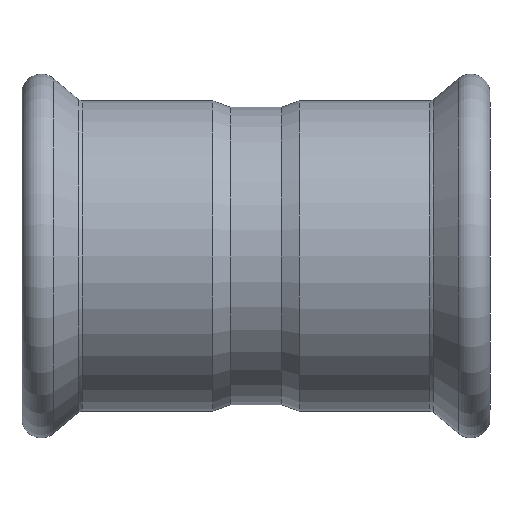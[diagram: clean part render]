
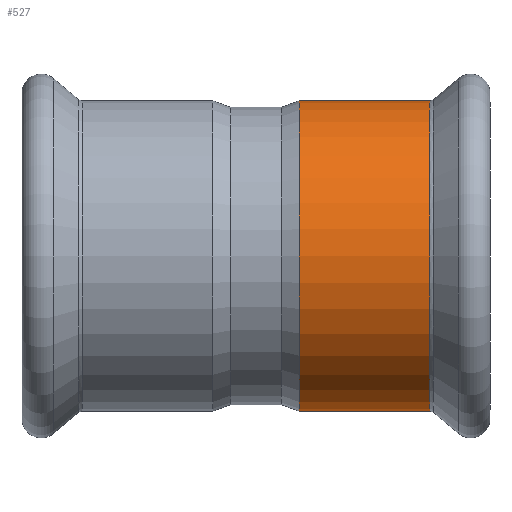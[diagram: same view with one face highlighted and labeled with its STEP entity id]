
A CAD part, front view. The second image highlights one B-rep face of the part: STEP entity #527.
In plain terms, the highlighted cylindrical face has radius 56.35 mm (diameter 112.7 mm), a full revolution.
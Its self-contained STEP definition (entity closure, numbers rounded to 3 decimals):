
#485=CARTESIAN_POINT('',(63.105,56.35,0.0));
#486=VERTEX_POINT('',#485);
#487=CARTESIAN_POINT('',(63.105,0.,0.0));
#488=DIRECTION('',(1.0,0.0,0.0));
#489=DIRECTION('',(0.0,-1.0,0.0));
#490=AXIS2_PLACEMENT_3D('',#487,#488,#489);
#491=CIRCLE('',#490,56.35);
#492=EDGE_CURVE('',#486,#486,#491,.T.);
#508=CARTESIAN_POINT('',(39.74,0.,0.0));
#509=DIRECTION('',(1.0,0.,0.0));
#510=DIRECTION('',(0.0,1.0,0.0));
#511=AXIS2_PLACEMENT_3D('',#508,#509,#510);
#512=CYLINDRICAL_SURFACE('',#511,56.35);
#513=CARTESIAN_POINT('',(15.647,56.35,0.0));
#514=VERTEX_POINT('',#513);
#515=CARTESIAN_POINT('',(15.647,0.,0.0));
#516=DIRECTION('',(1.0,0.0,0.0));
#517=DIRECTION('',(0.0,1.0,0.0));
#518=AXIS2_PLACEMENT_3D('',#515,#516,#517);
#519=CIRCLE('',#518,56.35);
#520=EDGE_CURVE('',#514,#514,#519,.T.);
#521=ORIENTED_EDGE('',*,*,#520,.T.);
#522=EDGE_LOOP('',(#521));
#523=FACE_OUTER_BOUND('',#522,.T.);
#524=ORIENTED_EDGE('',*,*,#492,.F.);
#525=EDGE_LOOP('',(#524));
#526=FACE_BOUND('',#525,.T.);
#527=ADVANCED_FACE('',(#523,#526),#512,.T.);
